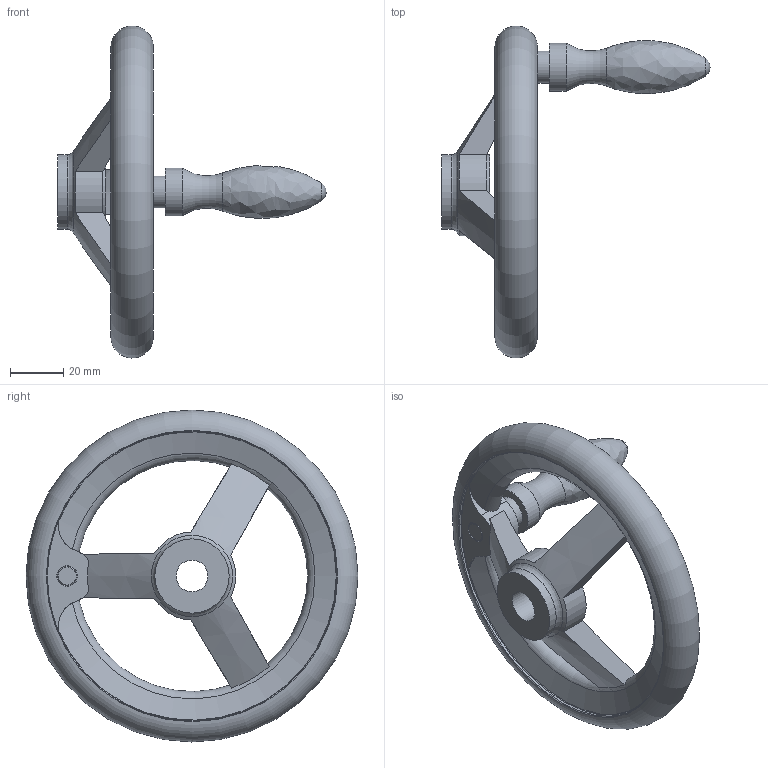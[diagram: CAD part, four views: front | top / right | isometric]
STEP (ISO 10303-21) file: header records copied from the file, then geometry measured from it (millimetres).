
FILE_DESCRIPTION( ( 'STEP AP203' ), '1' );
FILE_NAME( 'C:/Temp/Ganter_Step_05_03_2020/data/1_3/din_950/din_950_b/din_950_b_d/Handwheel DIN 950-AL-125-B12-D.stp', '2020-03-05T10:29:38', ( 'License CC BY-ND 4.0' ), ( 'CADENAS' ), ' ', 'PARTsolutions', ' ' );
FILE_SCHEMA( ( 'CONFIG_CONTROL_DESIGN' ) );
Length unit declared in the file: millimetre
Products named in the file (1): _Handwheel DIN 950-AL-125-B12-D
Bounding box: 101 x 124.99 x 124.99 mm (x, y, z)
Volume: 106542.8 mm3; surface area: 30025.6 mm2
Topology: 1 solids, 1 shells, 46 faces, 125 edges, 79 vertices
Faces by surface type: cylinder 15, plane 12, torus 11, cone 6, bspline 1, sphere 1
Full cylindrical faces by diameter (mm): 12 x2, 18 x1, 28 x2, 109 x2
Entity records: 1683 total; most frequent: CARTESIAN_POINT 618, DIRECTION 202, ORIENTED_EDGE 196, EDGE_CURVE 98, AXIS2_PLACEMENT_3D 95, VERTEX_POINT 75, EDGE_LOOP 73, FACE_OUTER_BOUND 62
